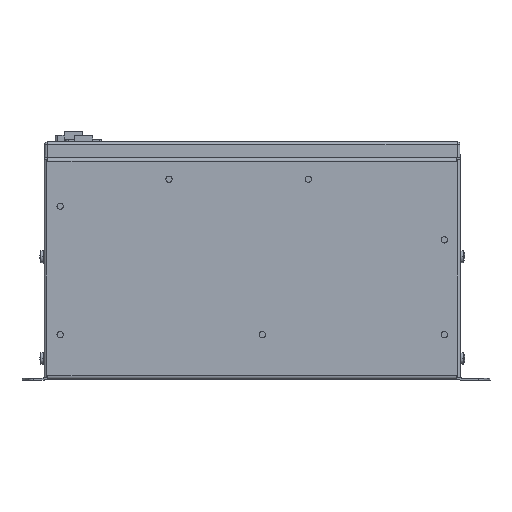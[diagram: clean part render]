
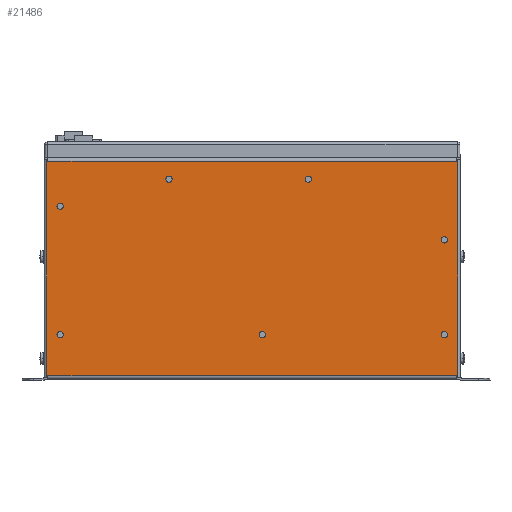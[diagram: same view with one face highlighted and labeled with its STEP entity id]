
A CAD part, left-side view. The second image highlights one B-rep face of the part: STEP entity #21486.
In plain terms, the highlighted planar face has unit normal (-1, 0, 0).
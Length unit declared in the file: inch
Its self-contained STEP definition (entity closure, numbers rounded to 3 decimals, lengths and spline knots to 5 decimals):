
#3086=DIRECTION('',(0.,-1.,0.));
#3087=VECTOR('',#3086,0.03);
#3088=CARTESIAN_POINT('',(-1.702,-9.17,0.));
#3089=LINE('',#3088,#3087);
#4338=DIRECTION('',(0.,-1.,0.));
#4339=VECTOR('',#4338,9.092);
#4340=CARTESIAN_POINT('',(-1.702,-0.078,-4.803));
#4341=LINE('',#4340,#4339);
#4347=DIRECTION('',(0.,-1.,0.));
#4348=VECTOR('',#4347,9.092);
#4349=CARTESIAN_POINT('',(-1.702,-0.078,-0.031));
#4350=LINE('',#4349,#4348);
#4351=DIRECTION('',(0.,0.,-1.));
#4352=VECTOR('',#4351,0.031);
#4353=CARTESIAN_POINT('',(-1.702,-9.17,0.));
#4354=LINE('',#4353,#4352);
#4355=DIRECTION('',(0.,0.,-1.));
#4356=VECTOR('',#4355,0.031);
#4357=CARTESIAN_POINT('',(-1.702,-9.17,-4.803));
#4358=LINE('',#4357,#4356);
#4359=DIRECTION('',(0.,0.,-1.));
#4360=VECTOR('',#4359,0.031);
#4361=CARTESIAN_POINT('',(-1.702,-0.078,-4.803));
#4362=LINE('',#4361,#4360);
#4363=DIRECTION('',(0.,0.,-1.));
#4364=VECTOR('',#4363,0.031);
#4365=CARTESIAN_POINT('',(-1.702,-0.078,0.));
#4366=LINE('',#4365,#4364);
#4367=CARTESIAN_POINT('',(-1.702,-0.349,-1.03));
#4368=DIRECTION('',(1.,0.,0.));
#4369=DIRECTION('',(0.,0.,1.));
#4370=AXIS2_PLACEMENT_3D('',#4367,#4368,#4369);
#4372=CARTESIAN_POINT('',(-1.702,-0.349,-1.03));
#4373=DIRECTION('',(1.,0.,0.));
#4374=DIRECTION('',(0.,0.,-1.));
#4375=AXIS2_PLACEMENT_3D('',#4372,#4373,#4374);
#4377=CARTESIAN_POINT('',(-1.702,-0.349,-3.89));
#4378=DIRECTION('',(1.,0.,0.));
#4379=DIRECTION('',(0.,0.,1.));
#4380=AXIS2_PLACEMENT_3D('',#4377,#4378,#4379);
#4382=CARTESIAN_POINT('',(-1.702,-0.349,-3.89));
#4383=DIRECTION('',(1.,0.,0.));
#4384=DIRECTION('',(0.,0.,-1.));
#4385=AXIS2_PLACEMENT_3D('',#4382,#4383,#4384);
#4387=CARTESIAN_POINT('',(-1.702,-8.899,-3.89));
#4388=DIRECTION('',(1.,0.,0.));
#4389=DIRECTION('',(0.,0.,1.));
#4390=AXIS2_PLACEMENT_3D('',#4387,#4388,#4389);
#4392=CARTESIAN_POINT('',(-1.702,-8.899,-3.89));
#4393=DIRECTION('',(1.,0.,0.));
#4394=DIRECTION('',(0.,0.,-1.));
#4395=AXIS2_PLACEMENT_3D('',#4392,#4393,#4394);
#4397=CARTESIAN_POINT('',(-1.702,-8.899,-1.78));
#4398=DIRECTION('',(1.,0.,0.));
#4399=DIRECTION('',(0.,0.,1.));
#4400=AXIS2_PLACEMENT_3D('',#4397,#4398,#4399);
#4402=CARTESIAN_POINT('',(-1.702,-8.899,-1.78));
#4403=DIRECTION('',(1.,0.,0.));
#4404=DIRECTION('',(0.,0.,-1.));
#4405=AXIS2_PLACEMENT_3D('',#4402,#4403,#4404);
#4407=CARTESIAN_POINT('',(-1.702,-4.849,-3.89));
#4408=DIRECTION('',(1.,0.,0.));
#4409=DIRECTION('',(0.,0.,1.));
#4410=AXIS2_PLACEMENT_3D('',#4407,#4408,#4409);
#4412=CARTESIAN_POINT('',(-1.702,-4.849,-3.89));
#4413=DIRECTION('',(1.,0.,0.));
#4414=DIRECTION('',(0.,0.,-1.));
#4415=AXIS2_PLACEMENT_3D('',#4412,#4413,#4414);
#4417=CARTESIAN_POINT('',(-1.702,-2.771,-0.43));
#4418=DIRECTION('',(1.,0.,0.));
#4419=DIRECTION('',(0.,0.,1.));
#4420=AXIS2_PLACEMENT_3D('',#4417,#4418,#4419);
#4422=CARTESIAN_POINT('',(-1.702,-2.771,-0.43));
#4423=DIRECTION('',(1.,0.,0.));
#4424=DIRECTION('',(0.,0.,-1.));
#4425=AXIS2_PLACEMENT_3D('',#4422,#4423,#4424);
#4427=CARTESIAN_POINT('',(-1.702,-5.871,-0.43));
#4428=DIRECTION('',(1.,0.,0.));
#4429=DIRECTION('',(0.,0.,1.));
#4430=AXIS2_PLACEMENT_3D('',#4427,#4428,#4429);
#4432=CARTESIAN_POINT('',(-1.702,-5.871,-0.43));
#4433=DIRECTION('',(1.,0.,0.));
#4434=DIRECTION('',(0.,0.,-1.));
#4435=AXIS2_PLACEMENT_3D('',#4432,#4433,#4434);
#4442=DIRECTION('',(0.,0.,-1.));
#4443=VECTOR('',#4442,4.834);
#4444=CARTESIAN_POINT('',(-1.702,-9.2,0.));
#4445=LINE('',#4444,#4443);
#4463=DIRECTION('',(0.,-1.,0.));
#4464=VECTOR('',#4463,0.03);
#4465=CARTESIAN_POINT('',(-1.702,-9.17,-4.834));
#4466=LINE('',#4465,#4464);
#4644=DIRECTION('',(0.,1.,0.));
#4645=VECTOR('',#4644,0.03);
#4646=CARTESIAN_POINT('',(-1.702,-0.078,-4.834));
#4647=LINE('',#4646,#4645);
#4660=DIRECTION('',(0.,1.,0.));
#4661=VECTOR('',#4660,0.03);
#4662=CARTESIAN_POINT('',(-1.702,-0.078,0.));
#4663=LINE('',#4662,#4661);
#4709=DIRECTION('',(0.,0.,-1.));
#4710=VECTOR('',#4709,4.834);
#4711=CARTESIAN_POINT('',(-1.702,-0.048,0.));
#4712=LINE('',#4711,#4710);
#14451=CARTESIAN_POINT('',(-1.702,-0.349,-0.96));
#14452=CARTESIAN_POINT('',(-1.702,-0.349,-1.1));
#14453=VERTEX_POINT('',#14451);
#14454=VERTEX_POINT('',#14452);
#14459=CARTESIAN_POINT('',(-1.702,-0.349,-3.82));
#14460=CARTESIAN_POINT('',(-1.702,-0.349,-3.96));
#14461=VERTEX_POINT('',#14459);
#14462=VERTEX_POINT('',#14460);
#14467=CARTESIAN_POINT('',(-1.702,-8.899,-3.82));
#14468=CARTESIAN_POINT('',(-1.702,-8.899,-3.96));
#14469=VERTEX_POINT('',#14467);
#14470=VERTEX_POINT('',#14468);
#14475=CARTESIAN_POINT('',(-1.702,-8.899,-1.71));
#14476=CARTESIAN_POINT('',(-1.702,-8.899,-1.85));
#14477=VERTEX_POINT('',#14475);
#14478=VERTEX_POINT('',#14476);
#14491=CARTESIAN_POINT('',(-1.702,-4.849,-3.82));
#14492=CARTESIAN_POINT('',(-1.702,-4.849,-3.96));
#14493=VERTEX_POINT('',#14491);
#14494=VERTEX_POINT('',#14492);
#14563=CARTESIAN_POINT('',(-1.702,-0.078,0.));
#14564=CARTESIAN_POINT('',(-1.702,-0.048,0.));
#14565=VERTEX_POINT('',#14563);
#14566=VERTEX_POINT('',#14564);
#14573=CARTESIAN_POINT('',(-1.702,-0.078,-4.834));
#14574=CARTESIAN_POINT('',(-1.702,-0.048,-4.834));
#14575=VERTEX_POINT('',#14573);
#14576=VERTEX_POINT('',#14574);
#14584=CARTESIAN_POINT('',(-1.702,-0.078,-0.031));
#14586=VERTEX_POINT('',#14584);
#14587=CARTESIAN_POINT('',(-1.702,-0.078,-4.803));
#14589=VERTEX_POINT('',#14587);
#16405=CARTESIAN_POINT('',(-1.702,-9.17,0.));
#16406=CARTESIAN_POINT('',(-1.702,-9.2,0.));
#16407=VERTEX_POINT('',#16405);
#16408=VERTEX_POINT('',#16406);
#16415=CARTESIAN_POINT('',(-1.702,-9.17,-4.834));
#16416=CARTESIAN_POINT('',(-1.702,-9.2,-4.834));
#16417=VERTEX_POINT('',#16415);
#16418=VERTEX_POINT('',#16416);
#16426=CARTESIAN_POINT('',(-1.702,-9.17,-0.031));
#16428=VERTEX_POINT('',#16426);
#16429=CARTESIAN_POINT('',(-1.702,-9.17,-4.803));
#16431=VERTEX_POINT('',#16429);
#16635=CARTESIAN_POINT('',(-1.702,-2.771,-0.36));
#16636=CARTESIAN_POINT('',(-1.702,-2.771,-0.5));
#16637=VERTEX_POINT('',#16635);
#16638=VERTEX_POINT('',#16636);
#16651=CARTESIAN_POINT('',(-1.702,-5.871,-0.36));
#16652=CARTESIAN_POINT('',(-1.702,-5.871,-0.5));
#16653=VERTEX_POINT('',#16651);
#16654=VERTEX_POINT('',#16652);
#21417=CARTESIAN_POINT('',(-1.702,0.,-0.031));
#21418=DIRECTION('',(-1.,0.,0.));
#21419=DIRECTION('',(0.,0.,-1.));
#21420=AXIS2_PLACEMENT_3D('',#21417,#21418,#21419);
#21421=PLANE('',#21420);
#21422=ORIENTED_EDGE('',*,*,#19494,.T.);
#21424=ORIENTED_EDGE('',*,*,#21423,.F.);
#21425=ORIENTED_EDGE('',*,*,#20566,.T.);
#21427=ORIENTED_EDGE('',*,*,#21426,.T.);
#21429=ORIENTED_EDGE('',*,*,#21428,.F.);
#21430=ORIENTED_EDGE('',*,*,#21403,.F.);
#21431=ORIENTED_EDGE('',*,*,#21385,.F.);
#21433=ORIENTED_EDGE('',*,*,#21432,.T.);
#21435=ORIENTED_EDGE('',*,*,#21434,.T.);
#21437=ORIENTED_EDGE('',*,*,#21436,.F.);
#21439=ORIENTED_EDGE('',*,*,#21438,.F.);
#21441=ORIENTED_EDGE('',*,*,#21440,.T.);
#21442=EDGE_LOOP('',(#21422,#21424,#21425,#21427,#21429,#21430,#21431,#21433,
#21435,#21437,#21439,#21441));
#21443=FACE_OUTER_BOUND('',#21442,.F.);
#21445=ORIENTED_EDGE('',*,*,#21444,.F.);
#21447=ORIENTED_EDGE('',*,*,#21446,.F.);
#21448=EDGE_LOOP('',(#21445,#21447));
#21449=FACE_BOUND('',#21448,.F.);
#21451=ORIENTED_EDGE('',*,*,#21450,.F.);
#21453=ORIENTED_EDGE('',*,*,#21452,.F.);
#21454=EDGE_LOOP('',(#21451,#21453));
#21455=FACE_BOUND('',#21454,.F.);
#21457=ORIENTED_EDGE('',*,*,#21456,.F.);
#21459=ORIENTED_EDGE('',*,*,#21458,.F.);
#21460=EDGE_LOOP('',(#21457,#21459));
#21461=FACE_BOUND('',#21460,.F.);
#21463=ORIENTED_EDGE('',*,*,#21462,.F.);
#21465=ORIENTED_EDGE('',*,*,#21464,.F.);
#21466=EDGE_LOOP('',(#21463,#21465));
#21467=FACE_BOUND('',#21466,.F.);
#21469=ORIENTED_EDGE('',*,*,#21468,.F.);
#21471=ORIENTED_EDGE('',*,*,#21470,.F.);
#21472=EDGE_LOOP('',(#21469,#21471));
#21473=FACE_BOUND('',#21472,.F.);
#21475=ORIENTED_EDGE('',*,*,#21474,.F.);
#21477=ORIENTED_EDGE('',*,*,#21476,.F.);
#21478=EDGE_LOOP('',(#21475,#21477));
#21479=FACE_BOUND('',#21478,.F.);
#21481=ORIENTED_EDGE('',*,*,#21480,.F.);
#21483=ORIENTED_EDGE('',*,*,#21482,.F.);
#21484=EDGE_LOOP('',(#21481,#21483));
#21485=FACE_BOUND('',#21484,.F.);
#21486=ADVANCED_FACE('',(#21443,#21449,#21455,#21461,#21467,#21473,#21479,
#21485),#21421,.T.);
#4371=CIRCLE('',#4370,0.07);
#4376=CIRCLE('',#4375,0.07);
#4381=CIRCLE('',#4380,0.07);
#4386=CIRCLE('',#4385,0.07);
#4391=CIRCLE('',#4390,0.07);
#4396=CIRCLE('',#4395,0.07);
#4401=CIRCLE('',#4400,0.07);
#4406=CIRCLE('',#4405,0.07);
#4411=CIRCLE('',#4410,0.07);
#4416=CIRCLE('',#4415,0.07);
#4421=CIRCLE('',#4420,0.07);
#4426=CIRCLE('',#4425,0.07);
#4431=CIRCLE('',#4430,0.07);
#4436=CIRCLE('',#4435,0.07);
#19494=EDGE_CURVE('',#14586,#16428,#4350,.T.);
#20566=EDGE_CURVE('',#16407,#16408,#3089,.T.);
#21385=EDGE_CURVE('',#14589,#16431,#4341,.T.);
#21403=EDGE_CURVE('',#16431,#16417,#4358,.T.);
#21423=EDGE_CURVE('',#16407,#16428,#4354,.T.);
#21426=EDGE_CURVE('',#16408,#16418,#4445,.T.);
#21428=EDGE_CURVE('',#16417,#16418,#4466,.T.);
#21432=EDGE_CURVE('',#14589,#14575,#4362,.T.);
#21434=EDGE_CURVE('',#14575,#14576,#4647,.T.);
#21436=EDGE_CURVE('',#14566,#14576,#4712,.T.);
#21438=EDGE_CURVE('',#14565,#14566,#4663,.T.);
#21440=EDGE_CURVE('',#14565,#14586,#4366,.T.);
#21444=EDGE_CURVE('',#14453,#14454,#4371,.T.);
#21446=EDGE_CURVE('',#14454,#14453,#4376,.T.);
#21450=EDGE_CURVE('',#14461,#14462,#4381,.T.);
#21452=EDGE_CURVE('',#14462,#14461,#4386,.T.);
#21456=EDGE_CURVE('',#14469,#14470,#4391,.T.);
#21458=EDGE_CURVE('',#14470,#14469,#4396,.T.);
#21462=EDGE_CURVE('',#14477,#14478,#4401,.T.);
#21464=EDGE_CURVE('',#14478,#14477,#4406,.T.);
#21468=EDGE_CURVE('',#14493,#14494,#4411,.T.);
#21470=EDGE_CURVE('',#14494,#14493,#4416,.T.);
#21474=EDGE_CURVE('',#16637,#16638,#4421,.T.);
#21476=EDGE_CURVE('',#16638,#16637,#4426,.T.);
#21480=EDGE_CURVE('',#16653,#16654,#4431,.T.);
#21482=EDGE_CURVE('',#16654,#16653,#4436,.T.);
